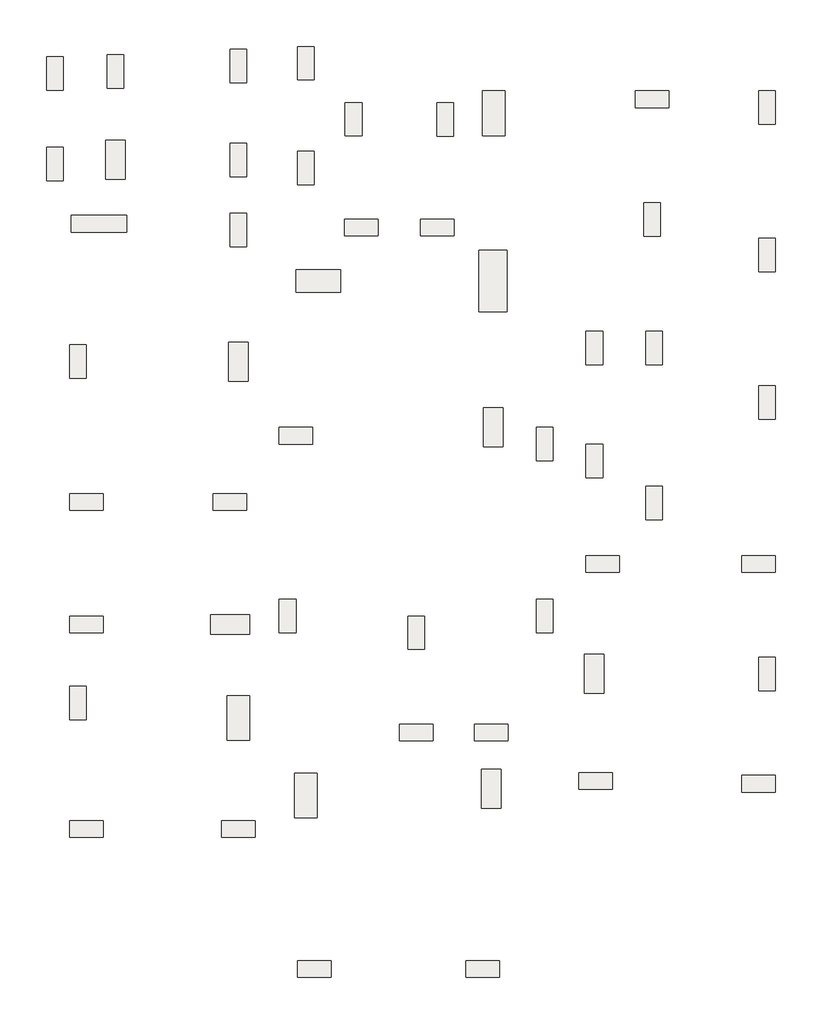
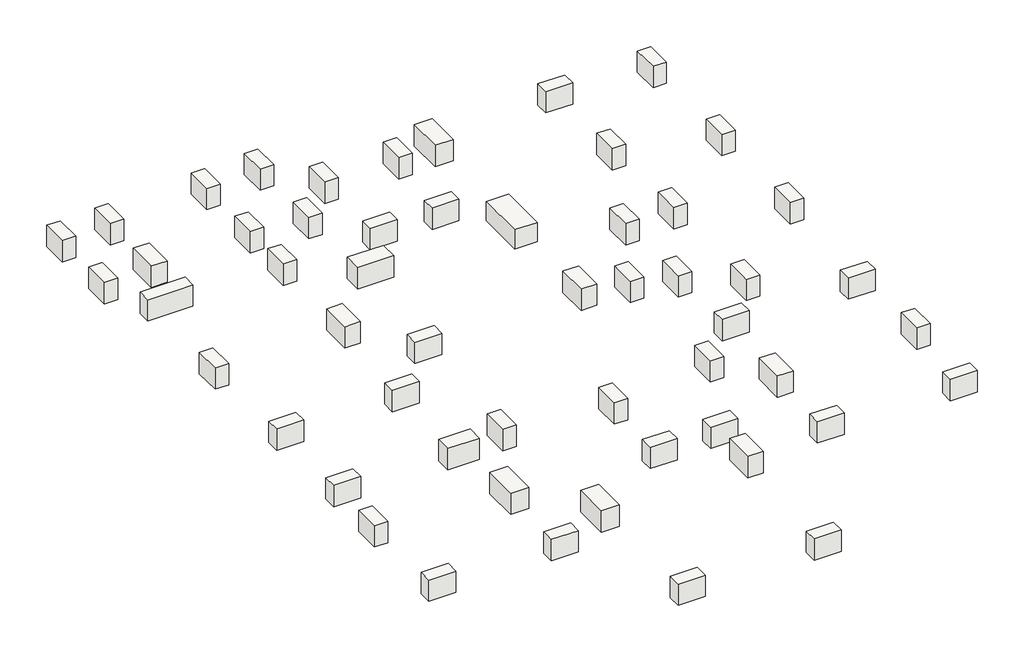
# One storey: 54 slabs.
"""IFC4 building model written with IfcOpenShell, lengths in millimetres."""

from ifc_helpers import new_model, si_unit, frame, origin, place, context, project, spatial, polyline, outline, extrude, element, save

model = new_model("IFC4")

# Units and contexts
model_context = context("Model", 3, world=origin())
ifc_project = project(units=[si_unit("LENGTHUNIT", "METRE", prefix="MILLI")], contexts=[model_context])

# Site, building, storey
site = spatial("IfcSite", under=ifc_project)
building = spatial("IfcBuilding", under=site)
storey = spatial("IfcBuildingStorey", under=building, Name="arase GB", Elevation=-870.0)

# Slabs
placement = place(None, origin())
element("IfcSlab", 1, ObjectType="Base rectangulaire : GB1 120 x 60 x 100", at=placement, inside=storey, context=model_context, shape_type="SweptSolid", body=[
    extrude(outline(polyline([(-13620.5383156, 4421.7911958), (-13620.5383156, 3221.7911958), (-14220.5383156, 3221.7911958), (-14220.5383156, 4421.7911958), (-13620.5383156, 4421.7911958)])), frame((0.0, 0.0, -1870.0), z_axis=(0.0, 0.0, 1.0), x_axis=(1.0, 0.0, 0.0)), (0.0, 0.0, 1.0), 1000.0),
])
element("IfcSlab", 2, ObjectType="Base rectangulaire : GB1 120 x 60 x 100", at=placement, inside=storey, context=model_context, shape_type="SweptSolid", body=[
    extrude(outline(polyline([(-14220.5383156, -913.3410127), (-13020.5383156, -913.3410127), (-13020.5383156, -1513.3410127), (-14220.5383156, -1513.3410127), (-14220.5383156, -913.3410127)])), frame((0.0, 0.0, -1870.0), z_axis=(0.0, 0.0, 1.0), x_axis=(1.0, 0.0, 0.0)), (0.0, 0.0, 1.0), 1000.0),
])
element("IfcSlab", 3, ObjectType="Base rectangulaire : GB1 120 x 60 x 100", at=placement, inside=storey, context=model_context, shape_type="SweptSolid", body=[
    extrude(outline(polyline([(-9065.5383156, -913.3410127), (-7865.5383156, -913.3410127), (-7865.5383156, -1513.3410127), (-9065.5383156, -1513.3410127), (-9065.5383156, -913.3410127)])), frame((0.0, 0.0, -1870.0), z_axis=(0.0, 0.0, 1.0), x_axis=(1.0, 0.0, 0.0)), (0.0, 0.0, 1.0), 1000.0),
])
element("IfcSlab", 4, ObjectType="Base rectangulaire : GB1 120 x 60 x 100", at=placement, inside=storey, context=model_context, shape_type="SweptSolid", body=[
    extrude(outline(polyline([(-14220.5383156, -5304.3410127), (-13020.5383156, -5304.3410127), (-13020.5383156, -5904.3410127), (-14220.5383156, -5904.3410127), (-14220.5383156, -5304.3410127)])), frame((0.0, 0.0, -1870.0), z_axis=(0.0, 0.0, 1.0), x_axis=(1.0, 0.0, 0.0)), (0.0, 0.0, 1.0), 1000.0),
])
element("IfcSlab", 5, ObjectType="Base rectangulaire : GB1 120 x 60 x 100", at=placement, inside=storey, context=model_context, shape_type="SweptSolid", body=[
    extrude(outline(polyline([(-14220.5383156, -9028.3410127), (-14220.5383156, -7828.3410127), (-13620.5383156, -7828.3410127), (-13620.5383156, -9028.3410127), (-14220.5383156, -9028.3410127)])), frame((0.0, 0.0, -1870.0), z_axis=(0.0, 0.0, 1.0), x_axis=(1.0, 0.0, 0.0)), (0.0, 0.0, 1.0), 1000.0),
])
element("IfcSlab", 6, ObjectType="Base rectangulaire : GB1 120 x 60 x 100", at=placement, inside=storey, context=model_context, shape_type="SweptSolid", body=[
    extrude(outline(polyline([(-14218.9922803, -12645.3410127), (-13018.9922803, -12645.3410127), (-13018.9922803, -13245.3410127), (-14218.9922803, -13245.3410127), (-14218.9922803, -12645.3410127)])), frame((0.0, 0.0, -1870.0), z_axis=(0.0, 0.0, 1.0), x_axis=(1.0, 0.0, 0.0)), (0.0, 0.0, 1.0), 1000.0),
])
element("IfcSlab", 7, ObjectType="Base rectangulaire : GB1 120 x 60 x 100", at=placement, inside=storey, context=model_context, shape_type="SweptSolid", body=[
    extrude(outline(polyline([(-8765.5383156, -12645.3410127), (-7565.5383156, -12645.3410127), (-7565.5383156, -13245.3410127), (-8765.5383156, -13245.3410127), (-8765.5383156, -12645.3410127)])), frame((0.0, 0.0, -1870.0), z_axis=(0.0, 0.0, 1.0), x_axis=(1.0, 0.0, 0.0)), (0.0, 0.0, 1.0), 1000.0),
])
element("IfcSlab", 8, ObjectType="Base rectangulaire : GB1 120 x 60 x 100", at=placement, inside=storey, context=model_context, shape_type="SweptSolid", body=[
    extrude(outline(polyline([(-6038.9922803, -17673.3410127), (-4838.9922803, -17673.3410127), (-4838.9922803, -18273.3410127), (-6038.9922803, -18273.3410127), (-6038.9922803, -17673.3410127)])), frame((0.0, 0.0, -1870.0), z_axis=(0.0, 0.0, 1.0), x_axis=(1.0, 0.0, 0.0)), (0.0, 0.0, 1.0), 1000.0),
])
element("IfcSlab", 9, ObjectType="Base rectangulaire : GB1 120 x 60 x 100", at=placement, inside=storey, context=model_context, shape_type="SweptSolid", body=[
    extrude(outline(polyline([(18.0077197, -17673.3410127), (1218.0077197, -17673.3410127), (1218.0077197, -18273.3410127), (18.0077197, -18273.3410127), (18.0077197, -17673.3410127)])), frame((0.0, 0.0, -1870.0), z_axis=(0.0, 0.0, 1.0), x_axis=(1.0, 0.0, 0.0)), (0.0, 0.0, 1.0), 1000.0),
])
element("IfcSlab", 10, ObjectType="Base rectangulaire : GB1 120 x 60 x 100", at=placement, inside=storey, context=model_context, shape_type="SweptSolid", body=[
    extrude(outline(polyline([(4061.0077197, -10919.3410127), (5261.0077197, -10919.3410127), (5261.0077197, -11519.3410127), (4061.0077197, -11519.3410127), (4061.0077197, -10919.3410127)])), frame((0.0, 0.0, -1870.0), z_axis=(0.0, 0.0, 1.0), x_axis=(1.0, 0.0, 0.0)), (0.0, 0.0, 1.0), 1000.0),
])
element("IfcSlab", 11, ObjectType="Base rectangulaire : GB1 120 x 60 x 100", at=placement, inside=storey, context=model_context, shape_type="SweptSolid", body=[
    extrude(outline(polyline([(318.0077197, -9180.3410127), (1518.0077197, -9180.3410127), (1518.0077197, -9780.3410127), (318.0077197, -9780.3410127), (318.0077197, -9180.3410127)])), frame((0.0, 0.0, -1870.0), z_axis=(0.0, 0.0, 1.0), x_axis=(1.0, 0.0, 0.0)), (0.0, 0.0, 1.0), 1000.0),
])
element("IfcSlab", 12, ObjectType="Base rectangulaire : GB1 120 x 60 x 100", at=placement, inside=storey, context=model_context, shape_type="SweptSolid", body=[
    extrude(outline(polyline([(-2373.2652979, -9180.3410127), (-1173.2652979, -9180.3410127), (-1173.2652979, -9780.3410127), (-2373.2652979, -9780.3410127), (-2373.2652979, -9180.3410127)])), frame((0.0, 0.0, -1870.0), z_axis=(0.0, 0.0, 1.0), x_axis=(1.0, 0.0, 0.0)), (0.0, 0.0, 1.0), 1000.0),
])
element("IfcSlab", 13, ObjectType="Base rectangulaire : GB1 120 x 60 x 100", at=placement, inside=storey, context=model_context, shape_type="SweptSolid", body=[
    extrude(outline(polyline([(-2073.2652979, -6505.3410127), (-2073.2652979, -5305.3410127), (-1473.2652979, -5305.3410127), (-1473.2652979, -6505.3410127), (-2073.2652979, -6505.3410127)])), frame((0.0, 0.0, -1870.0), z_axis=(0.0, 0.0, 1.0), x_axis=(1.0, 0.0, 0.0)), (0.0, 0.0, 1.0), 1000.0),
])
element("IfcSlab", 14, ObjectType="Base rectangulaire : GB1 120 x 60 x 100", at=placement, inside=storey, context=model_context, shape_type="SweptSolid", body=[
    extrude(outline(polyline([(2535.0077197, -5905.3410127), (2535.0077197, -4705.3410127), (3135.0077197, -4705.3410127), (3135.0077197, -5905.3410127), (2535.0077197, -5905.3410127)])), frame((0.0, 0.0, -1870.0), z_axis=(0.0, 0.0, 1.0), x_axis=(1.0, 0.0, 0.0)), (0.0, 0.0, 1.0), 1000.0),
])
element("IfcSlab", 15, ObjectType="Base rectangulaire : GB1 120 x 60 x 100", at=placement, inside=storey, context=model_context, shape_type="SweptSolid", body=[
    extrude(outline(polyline([(11119.0077197, -11619.3410127), (9919.0077197, -11619.3410127), (9919.0077197, -11019.3410127), (11119.0077197, -11019.3410127), (11119.0077197, -11619.3410127)])), frame((0.0, 0.0, -1870.0), z_axis=(0.0, 0.0, 1.0), x_axis=(1.0, 0.0, 0.0)), (0.0, 0.0, 1.0), 1000.0),
])
element("IfcSlab", 16, ObjectType="Base rectangulaire : GB1 120 x 60 x 100", at=placement, inside=storey, context=model_context, shape_type="SweptSolid", body=[
    extrude(outline(polyline([(11119.0077197, -6778.3410127), (11119.0077197, -7978.3410127), (10519.0077197, -7978.3410127), (10519.0077197, -6778.3410127), (11119.0077197, -6778.3410127)])), frame((0.0, 0.0, -1870.0), z_axis=(0.0, 0.0, 1.0), x_axis=(1.0, 0.0, 0.0)), (0.0, 0.0, 1.0), 1000.0),
])
element("IfcSlab", 17, ObjectType="Base rectangulaire : GB1 120 x 60 x 100", at=placement, inside=storey, context=model_context, shape_type="SweptSolid", body=[
    extrude(outline(polyline([(9919.0077197, -3133.3410127), (11119.0077197, -3133.3410127), (11119.0077197, -3733.3410127), (9919.0077197, -3733.3410127), (9919.0077197, -3133.3410127)])), frame((0.0, 0.0, -1870.0), z_axis=(0.0, 0.0, 1.0), x_axis=(1.0, 0.0, 0.0)), (0.0, 0.0, 1.0), 1000.0),
])
element("IfcSlab", 18, ObjectType="Base rectangulaire : GB1 120 x 60 x 100", at=placement, inside=storey, context=model_context, shape_type="SweptSolid", body=[
    extrude(outline(polyline([(4319.0077197, -3133.3410127), (5519.0077197, -3133.3410127), (5519.0077197, -3733.3410127), (4319.0077197, -3733.3410127), (4319.0077197, -3133.3410127)])), frame((0.0, 0.0, -1870.0), z_axis=(0.0, 0.0, 1.0), x_axis=(1.0, 0.0, 0.0)), (0.0, 0.0, 1.0), 1000.0),
])
element("IfcSlab", 19, ObjectType="Base rectangulaire : GB1 120 x 60 x 100", at=placement, inside=storey, context=model_context, shape_type="SweptSolid", body=[
    extrude(outline(polyline([(6469.0077197, -1853.3410127), (6469.0077197, -653.3410127), (7069.0077197, -653.3410127), (7069.0077197, -1853.3410127), (6469.0077197, -1853.3410127)])), frame((0.0, 0.0, -1870.0), z_axis=(0.0, 0.0, 1.0), x_axis=(1.0, 0.0, 0.0)), (0.0, 0.0, 1.0), 1000.0),
])
element("IfcSlab", 20, ObjectType="Base rectangulaire : GB1 120 x 60 x 100", at=placement, inside=storey, context=model_context, shape_type="SweptSolid", body=[
    extrude(outline(polyline([(4319.0077197, -335.8410127), (4319.0077197, 864.1589873), (4919.0077197, 864.1589873), (4919.0077197, -335.8410127), (4319.0077197, -335.8410127)])), frame((0.0, 0.0, -1870.0), z_axis=(0.0, 0.0, 1.0), x_axis=(1.0, 0.0, 0.0)), (0.0, 0.0, 1.0), 1000.0),
])
element("IfcSlab", 21, ObjectType="Base rectangulaire : GB1 120 x 60 x 100", at=placement, inside=storey, context=model_context, shape_type="SweptSolid", body=[
    extrude(outline(polyline([(2535.0077197, 261.6589873), (2535.0077197, 1461.6589873), (3135.0077197, 1461.6589873), (3135.0077197, 261.6589873), (2535.0077197, 261.6589873)])), frame((0.0, 0.0, -1870.0), z_axis=(0.0, 0.0, 1.0), x_axis=(1.0, 0.0, 0.0)), (0.0, 0.0, 1.0), 1000.0),
])
element("IfcSlab", 22, ObjectType="Base rectangulaire : GB1 120 x 60 x 100", at=placement, inside=storey, context=model_context, shape_type="SweptSolid", body=[
    extrude(outline(polyline([(10519.0077197, 1761.6589873), (10519.0077197, 2961.6589873), (11119.0077197, 2961.6589873), (11119.0077197, 1761.6589873), (10519.0077197, 1761.6589873)])), frame((0.0, 0.0, -1870.0), z_axis=(0.0, 0.0, 1.0), x_axis=(1.0, 0.0, 0.0)), (0.0, 0.0, 1.0), 1000.0),
])
element("IfcSlab", 23, ObjectType="Base rectangulaire : GB1 120 x 60 x 100", at=placement, inside=storey, context=model_context, shape_type="SweptSolid", body=[
    extrude(outline(polyline([(6469.0077197, 3711.6589873), (6469.0077197, 4911.6589873), (7069.0077197, 4911.6589873), (7069.0077197, 3711.6589873), (6469.0077197, 3711.6589873)])), frame((0.0, 0.0, -1870.0), z_axis=(0.0, 0.0, 1.0), x_axis=(1.0, 0.0, 0.0)), (0.0, 0.0, 1.0), 1000.0),
])
element("IfcSlab", 24, ObjectType="Base rectangulaire : GB1 120 x 60 x 100", at=placement, inside=storey, context=model_context, shape_type="SweptSolid", body=[
    extrude(outline(polyline([(4319.0077197, 3711.6589873), (4319.0077197, 4911.6589873), (4919.0077197, 4911.6589873), (4919.0077197, 3711.6589873), (4319.0077197, 3711.6589873)])), frame((0.0, 0.0, -1870.0), z_axis=(0.0, 0.0, 1.0), x_axis=(1.0, 0.0, 0.0)), (0.0, 0.0, 1.0), 1000.0),
])
element("IfcSlab", 25, ObjectType="Base rectangulaire : GB1 120 x 60 x 100", at=placement, inside=storey, context=model_context, shape_type="SweptSolid", body=[
    extrude(outline(polyline([(10519.0077197, 7048.6589873), (10519.0077197, 8248.6589873), (11119.0077197, 8248.6589873), (11119.0077197, 7048.6589873), (10519.0077197, 7048.6589873)])), frame((0.0, 0.0, -1870.0), z_axis=(0.0, 0.0, 1.0), x_axis=(1.0, 0.0, 0.0)), (0.0, 0.0, 1.0), 1000.0),
])
element("IfcSlab", 26, ObjectType="Base rectangulaire : GB1 120 x 60 x 100", at=placement, inside=storey, context=model_context, shape_type="SweptSolid", body=[
    extrude(outline(polyline([(6394.4616844, 8321.6589873), (6394.4616844, 9521.6589873), (6994.4616844, 9521.6589873), (6994.4616844, 8321.6589873), (6394.4616844, 8321.6589873)])), frame((0.0, 0.0, -1870.0), z_axis=(0.0, 0.0, 1.0), x_axis=(1.0, 0.0, 0.0)), (0.0, 0.0, 1.0), 1000.0),
])
element("IfcSlab", 27, ObjectType="Base rectangulaire : GB1 120 x 60 x 100", at=placement, inside=storey, context=model_context, shape_type="SweptSolid", body=[
    extrude(outline(polyline([(10519.0077197, 12335.6589873), (10519.0077197, 13535.6589873), (11119.0077197, 13535.6589873), (11119.0077197, 12335.6589873), (10519.0077197, 12335.6589873)])), frame((0.0, 0.0, -1870.0), z_axis=(0.0, 0.0, 1.0), x_axis=(1.0, 0.0, 0.0)), (0.0, 0.0, 1.0), 1000.0),
])
element("IfcSlab", 28, ObjectType="Base rectangulaire : GB1 120 x 60 x 100", at=placement, inside=storey, context=model_context, shape_type="SweptSolid", body=[
    extrude(outline(polyline([(7294.4616844, 12935.6589873), (6094.4616844, 12935.6589873), (6094.4616844, 13535.6589873), (7294.4616844, 13535.6589873), (7294.4616844, 12935.6589873)])), frame((0.0, 0.0, -1870.0), z_axis=(0.0, 0.0, 1.0), x_axis=(1.0, 0.0, 0.0)), (0.0, 0.0, 1.0), 1000.0),
])
element("IfcSlab", 29, ObjectType="Base rectangulaire : GB1 120 x 60 x 100", at=placement, inside=storey, context=model_context, shape_type="SweptSolid", body=[
    extrude(outline(polyline([(-430.5383156, 13119.6589873), (-430.5383156, 11919.6589873), (-1030.5383156, 11919.6589873), (-1030.5383156, 13119.6589873), (-430.5383156, 13119.6589873)])), frame((0.0, 0.0, -1870.0), z_axis=(0.0, 0.0, 1.0), x_axis=(1.0, 0.0, 0.0)), (0.0, 0.0, 1.0), 1000.0),
])
element("IfcSlab", 30, ObjectType="Base rectangulaire : GB1 120 x 60 x 100", at=placement, inside=storey, context=model_context, shape_type="SweptSolid", body=[
    extrude(outline(polyline([(-3722.5383156, 13120.5364745), (-3722.5383156, 11920.5364745), (-4322.5383156, 11920.5364745), (-4322.5383156, 13120.5364745), (-3722.5383156, 13120.5364745)])), frame((0.0, 0.0, -1870.0), z_axis=(0.0, 0.0, 1.0), x_axis=(1.0, 0.0, 0.0)), (0.0, 0.0, 1.0), 1000.0),
])
element("IfcSlab", 31, ObjectType="Base rectangulaire : GB1 120 x 60 x 100", at=placement, inside=storey, context=model_context, shape_type="SweptSolid", body=[
    extrude(outline(polyline([(-5436.5383156, 11366.6589873), (-5436.5383156, 10166.6589873), (-6036.5383156, 10166.6589873), (-6036.5383156, 11366.6589873), (-5436.5383156, 11366.6589873)])), frame((0.0, 0.0, -1870.0), z_axis=(0.0, 0.0, 1.0), x_axis=(1.0, 0.0, 0.0)), (0.0, 0.0, 1.0), 1000.0),
])
element("IfcSlab", 32, ObjectType="Base rectangulaire : GB1 120 x 60 x 100", at=placement, inside=storey, context=model_context, shape_type="SweptSolid", body=[
    extrude(outline(polyline([(-5436.5383156, 15130.3702346), (-5436.5383156, 13930.3702346), (-6036.5383156, 13930.3702346), (-6036.5383156, 15130.3702346), (-5436.5383156, 15130.3702346)])), frame((0.0, 0.0, -1870.0), z_axis=(0.0, 0.0, 1.0), x_axis=(1.0, 0.0, 0.0)), (0.0, 0.0, 1.0), 1000.0),
])
element("IfcSlab", 33, ObjectType="Base rectangulaire : GB1 120 x 60 x 100", at=placement, inside=storey, context=model_context, shape_type="SweptSolid", body=[
    extrude(outline(polyline([(-7865.5383156, 15028.5898253), (-7865.5383156, 13828.5898253), (-8465.5383156, 13828.5898253), (-8465.5383156, 15028.5898253), (-7865.5383156, 15028.5898253)])), frame((0.0, 0.0, -1870.0), z_axis=(0.0, 0.0, 1.0), x_axis=(1.0, 0.0, 0.0)), (0.0, 0.0, 1.0), 1000.0),
])
element("IfcSlab", 34, ObjectType="Base rectangulaire : GB1 120 x 60 x 100", at=placement, inside=storey, context=model_context, shape_type="SweptSolid", body=[
    extrude(outline(polyline([(-12275.5383156, 14835.5041235), (-12275.5383156, 13635.5041235), (-12875.5383156, 13635.5041235), (-12875.5383156, 14835.5041235), (-12275.5383156, 14835.5041235)])), frame((0.0, 0.0, -1870.0), z_axis=(0.0, 0.0, 1.0), x_axis=(1.0, 0.0, 0.0)), (0.0, 0.0, 1.0), 1000.0),
])
element("IfcSlab", 35, ObjectType="Base rectangulaire : GB1 120 x 60 x 100", at=placement, inside=storey, context=model_context, shape_type="SweptSolid", body=[
    extrude(outline(polyline([(-14449.5383156, 14768.3640383), (-14449.5383156, 13568.3640383), (-15049.5383156, 13568.3640383), (-15049.5383156, 14768.3640383), (-14449.5383156, 14768.3640383)])), frame((0.0, 0.0, -1870.0), z_axis=(0.0, 0.0, 1.0), x_axis=(1.0, 0.0, 0.0)), (0.0, 0.0, 1.0), 1000.0),
])
element("IfcSlab", 36, ObjectType="Base rectangulaire : GB1 120 x 60 x 100", at=placement, inside=storey, context=model_context, shape_type="SweptSolid", body=[
    extrude(outline(polyline([(-14449.5383156, 11516.6589873), (-14449.5383156, 10316.6589873), (-15049.5383156, 10316.6589873), (-15049.5383156, 11516.6589873), (-14449.5383156, 11516.6589873)])), frame((0.0, 0.0, -1870.0), z_axis=(0.0, 0.0, 1.0), x_axis=(1.0, 0.0, 0.0)), (0.0, 0.0, 1.0), 1000.0),
])
element("IfcSlab", 37, ObjectType="Base rectangulaire : GB1 120 x 60 x 100", at=placement, inside=storey, context=model_context, shape_type="SweptSolid", body=[
    extrude(outline(polyline([(-7865.5383156, 11666.6589873), (-7865.5383156, 10466.6589873), (-8465.5383156, 10466.6589873), (-8465.5383156, 11666.6589873), (-7865.5383156, 11666.6589873)])), frame((0.0, 0.0, -1870.0), z_axis=(0.0, 0.0, 1.0), x_axis=(1.0, 0.0, 0.0)), (0.0, 0.0, 1.0), 1000.0),
])
element("IfcSlab", 38, ObjectType="Base rectangulaire : GB1 120 x 60 x 100", at=placement, inside=storey, context=model_context, shape_type="SweptSolid", body=[
    extrude(outline(polyline([(-4355.5383156, 8941.6589873), (-3155.5383156, 8941.6589873), (-3155.5383156, 8341.6589873), (-4355.5383156, 8341.6589873), (-4355.5383156, 8941.6589873)])), frame((0.0, 0.0, -1870.0), z_axis=(0.0, 0.0, 1.0), x_axis=(1.0, 0.0, 0.0)), (0.0, 0.0, 1.0), 1000.0),
])
element("IfcSlab", 39, ObjectType="Base rectangulaire : GB1 120 x 60 x 100", at=placement, inside=storey, context=model_context, shape_type="SweptSolid", body=[
    extrude(outline(polyline([(-1615.5383156, 8941.6589873), (-415.5383156, 8941.6589873), (-415.5383156, 8341.6589873), (-1615.5383156, 8341.6589873), (-1615.5383156, 8941.6589873)])), frame((0.0, 0.0, -1870.0), z_axis=(0.0, 0.0, 1.0), x_axis=(1.0, 0.0, 0.0)), (0.0, 0.0, 1.0), 1000.0),
])
element("IfcSlab", 40, ObjectType="Base rectangulaire : GB1 120 x 60 x 100", at=placement, inside=storey, context=model_context, shape_type="SweptSolid", body=[
    extrude(outline(polyline([(-8465.5383156, 7946.529424), (-8465.5383156, 9146.529424), (-7865.5383156, 9146.529424), (-7865.5383156, 7946.529424), (-8465.5383156, 7946.529424)])), frame((0.0, 0.0, -1870.0), z_axis=(0.0, 0.0, 1.0), x_axis=(1.0, 0.0, 0.0)), (0.0, 0.0, 1.0), 1000.0),
])
element("IfcSlab", 41, ObjectType="Base rectangulaire : GB1 120 x 60 x 100", at=placement, inside=storey, context=model_context, shape_type="SweptSolid", body=[
    extrude(outline(polyline([(-6094.9922803, -4705.3410127), (-6094.9922803, -5905.3410127), (-6694.9922803, -5905.3410127), (-6694.9922803, -4705.3410127), (-6094.9922803, -4705.3410127)])), frame((0.0, 0.0, -1870.0), z_axis=(0.0, 0.0, 1.0), x_axis=(1.0, 0.0, 0.0)), (0.0, 0.0, 1.0), 1000.0),
])
element("IfcSlab", 42, ObjectType="Base rectangulaire : GB1 120 x 60 x 100", at=placement, inside=storey, context=model_context, shape_type="SweptSolid", body=[
    extrude(outline(polyline([(-6694.9922803, 1461.6589873), (-5494.9922803, 1461.6589873), (-5494.9922803, 861.6589873), (-6694.9922803, 861.6589873), (-6694.9922803, 1461.6589873)])), frame((0.0, 0.0, -1870.0), z_axis=(0.0, 0.0, 1.0), x_axis=(1.0, 0.0, 0.0)), (0.0, 0.0, 1.0), 1000.0),
])
element("IfcSlab", 43, ObjectType="Base rectangulaire : GB2 140 x 70 x 100", at=placement, inside=storey, context=model_context, shape_type="SweptSolid", body=[
    extrude(outline(polyline([(-12225.5383156, 11766.9971942), (-12225.5383156, 10366.9971942), (-12925.5383156, 10366.9971942), (-12925.5383156, 11766.9971942), (-12225.5383156, 11766.9971942)])), frame((0.0, 0.0, -1870.0), z_axis=(0.0, 0.0, 1.0), x_axis=(1.0, 0.0, 0.0)), (0.0, 0.0, 1.0), 1000.0),
])
element("IfcSlab", 44, ObjectType="Base rectangulaire : GB2 140 x 70 x 100", at=placement, inside=storey, context=model_context, shape_type="SweptSolid", body=[
    extrude(outline(polyline([(-7815.5383156, 4516.6589873), (-7815.5383156, 3116.6589873), (-8515.5383156, 3116.6589873), (-8515.5383156, 4516.6589873), (-7815.5383156, 4516.6589873)])), frame((0.0, 0.0, -1870.0), z_axis=(0.0, 0.0, 1.0), x_axis=(1.0, 0.0, 0.0)), (0.0, 0.0, 1.0), 1000.0),
])
element("IfcSlab", 45, ObjectType="Base rectangulaire : GB2 140 x 70 x 100", at=placement, inside=storey, context=model_context, shape_type="SweptSolid", body=[
    extrude(outline(polyline([(1268.0077197, -10796.3410127), (1268.0077197, -12196.3410127), (568.0077197, -12196.3410127), (568.0077197, -10796.3410127), (1268.0077197, -10796.3410127)])), frame((0.0, 0.0, -1870.0), z_axis=(0.0, 0.0, 1.0), x_axis=(1.0, 0.0, 0.0)), (0.0, 0.0, 1.0), 1000.0),
])
element("IfcSlab", 46, ObjectType="Base rectangulaire : GB2 140 x 70 x 100", at=placement, inside=storey, context=model_context, shape_type="SweptSolid", body=[
    extrude(outline(polyline([(4969.0077197, -6678.3410127), (4969.0077197, -8078.3410127), (4269.0077197, -8078.3410127), (4269.0077197, -6678.3410127), (4969.0077197, -6678.3410127)])), frame((0.0, 0.0, -1870.0), z_axis=(0.0, 0.0, 1.0), x_axis=(1.0, 0.0, 0.0)), (0.0, 0.0, 1.0), 1000.0),
])
element("IfcSlab", 47, ObjectType="Base rectangulaire : GB2 140 x 70 x 100", at=placement, inside=storey, context=model_context, shape_type="SweptSolid", body=[
    extrude(outline(polyline([(1334.4616844, 2161.6589873), (1334.4616844, 761.6589873), (634.4616844, 761.6589873), (634.4616844, 2161.6589873), (1334.4616844, 2161.6589873)])), frame((0.0, 0.0, -1870.0), z_axis=(0.0, 0.0, 1.0), x_axis=(1.0, 0.0, 0.0)), (0.0, 0.0, 1.0), 1000.0),
])
element("IfcSlab", 48, ObjectType="Base rectangulaire : GB2 140 x 70 x 100", at=placement, inside=storey, context=model_context, shape_type="SweptSolid", body=[
    extrude(outline(polyline([(-9165.5383156, -5255.3410127), (-7765.5383156, -5255.3410127), (-7765.5383156, -5955.3410127), (-9165.5383156, -5955.3410127), (-9165.5383156, -5255.3410127)])), frame((0.0, 0.0, -1870.0), z_axis=(0.0, 0.0, 1.0), x_axis=(1.0, 0.0, 0.0)), (0.0, 0.0, 1.0), 1000.0),
])
element("IfcSlab", 49, ObjectType="Base rectangulaire : GB3 160 x 80 x 100", at=placement, inside=storey, context=model_context, shape_type="SweptSolid", body=[
    extrude(outline(polyline([(1401.4616844, 13535.6589873), (1401.4616844, 11935.6589873), (601.4616844, 11935.6589873), (601.4616844, 13535.6589873), (1401.4616844, 13535.6589873)])), frame((0.0, 0.0, -1870.0), z_axis=(0.0, 0.0, 1.0), x_axis=(1.0, 0.0, 0.0)), (0.0, 0.0, 1.0), 1000.0),
])
element("IfcSlab", 50, ObjectType="Base rectangulaire : GB3 160 x 80 x 100", at=placement, inside=storey, context=model_context, shape_type="SweptSolid", body=[
    extrude(outline(polyline([(-6086.5383156, 7116.6589873), (-4486.5383156, 7116.6589873), (-4486.5383156, 6316.6589873), (-6086.5383156, 6316.6589873), (-6086.5383156, 7116.6589873)])), frame((0.0, 0.0, -1870.0), z_axis=(0.0, 0.0, 1.0), x_axis=(1.0, 0.0, 0.0)), (0.0, 0.0, 1.0), 1000.0),
])
element("IfcSlab", 51, ObjectType="Base rectangulaire : GB3 160 x 80 x 100", at=placement, inside=storey, context=model_context, shape_type="SweptSolid", body=[
    extrude(outline(polyline([(-8565.5383156, -9758.3410127), (-8565.5383156, -8158.3410127), (-7765.5383156, -8158.3410127), (-7765.5383156, -9758.3410127), (-8565.5383156, -9758.3410127)])), frame((0.0, 0.0, -1870.0), z_axis=(0.0, 0.0, 1.0), x_axis=(1.0, 0.0, 0.0)), (0.0, 0.0, 1.0), 1000.0),
])
element("IfcSlab", 52, ObjectType="Base rectangulaire : GB3 160 x 80 x 100", at=placement, inside=storey, context=model_context, shape_type="SweptSolid", body=[
    extrude(outline(polyline([(-6138.9922803, -12545.3410127), (-6138.9922803, -10945.3410127), (-5338.9922803, -10945.3410127), (-5338.9922803, -12545.3410127), (-6138.9922803, -12545.3410127)])), frame((0.0, 0.0, -1870.0), z_axis=(0.0, 0.0, 1.0), x_axis=(1.0, 0.0, 0.0)), (0.0, 0.0, 1.0), 1000.0),
])
element("IfcSlab", 53, ObjectType="Base rectangulaire : GB4 200 x 60 x 100", at=placement, inside=storey, context=model_context, shape_type="SweptSolid", body=[
    extrude(outline(polyline([(-14170.5383156, 9075.6589873), (-12170.5383156, 9075.6589873), (-12170.5383156, 8475.6589873), (-14170.5383156, 8475.6589873), (-14170.5383156, 9075.6589873)])), frame((0.0, 0.0, -1870.0), z_axis=(0.0, 0.0, 1.0), x_axis=(1.0, 0.0, 0.0)), (0.0, 0.0, 1.0), 1000.0),
])
element("IfcSlab", 54, ObjectType="Base rectangulaire : GB5 220 x 100 x 100", at=placement, inside=storey, context=model_context, shape_type="SweptSolid", body=[
    extrude(outline(polyline([(1484.4616844, 7816.6589873), (1484.4616844, 5616.6589873), (484.4616844, 5616.6589873), (484.4616844, 7816.6589873), (1484.4616844, 7816.6589873)])), frame((0.0, 0.0, -1870.0), z_axis=(0.0, 0.0, 1.0), x_axis=(1.0, 0.0, 0.0)), (0.0, 0.0, 1.0), 900.0),
])

save(model, "model.ifc")
